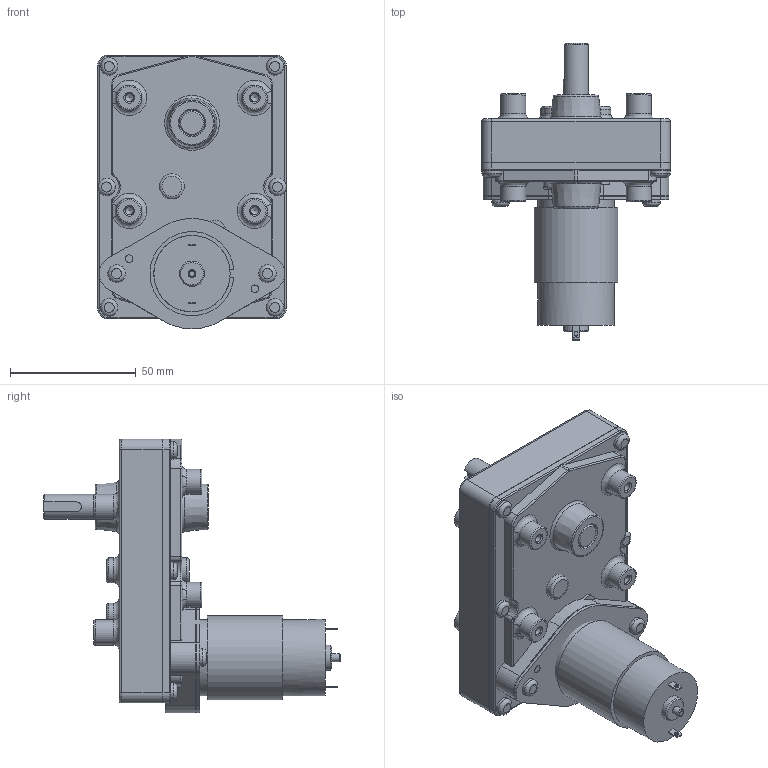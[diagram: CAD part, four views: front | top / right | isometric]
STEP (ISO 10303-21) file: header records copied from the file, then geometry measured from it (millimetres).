
FILE_DESCRIPTION((''),'2;1');
FILE_NAME('\\Servert1600\threepeace\2015homepage\STP\HP-Data_GM_3D_STEP\TP-3452A,B,C-LGL-6～1000-S00-12,24.stp','2016-11-11T11:48:49',('Administrator'),(''),'Autodesk Inventor 2010','Autodesk Inventor 2010','');
FILE_SCHEMA(('AUTOMOTIVE_DESIGN { 1 0 10303 214 1 1 1 1 }'));
Length unit declared in the file: millimetre
Products named in the file (3): TP-3452A,B,C-LGL-6～1000-S00-12,24; lgl; TP-3452A,B,C
Assembly tree (2 placements, depth 2):
  TP-3452A,B,C-LGL-6～1000-S00-12,24
    lgl
    TP-3452A,B,C
Bounding box: 75 x 118.1 x 109 mm (x, y, z)
Volume: 261868 mm3; surface area: 38388.9 mm2
Topology: 2 solids, 2 shells, 294 faces, 680 edges, 423 vertices
Faces by surface type: plane 101, cylinder 84, bspline 54, torus 40, cone 15
Full cylindrical faces by diameter (mm): 2.5 x1, 3 x2, 3.17 x2, 7 x4, 9 x2, 9.9 x1, 10 x12, 15 x1, 30.4 x1
Entity records: 8831 total; most frequent: CARTESIAN_POINT 2635, DIRECTION 1321, ORIENTED_EDGE 1110, EDGE_CURVE 555, AXIS2_PLACEMENT_3D 537, EDGE_LOOP 429, VERTEX_POINT 396, FACE_OUTER_BOUND 294
